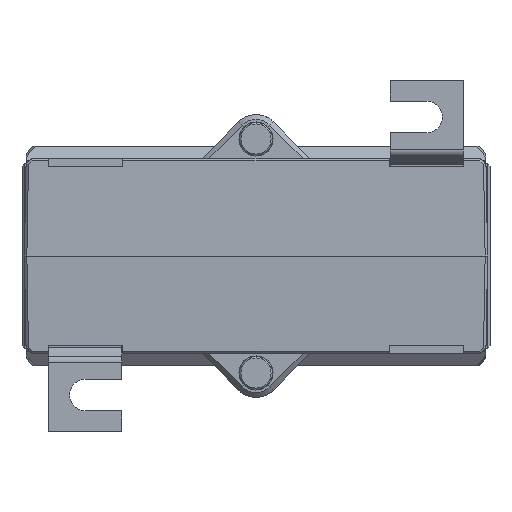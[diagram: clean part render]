
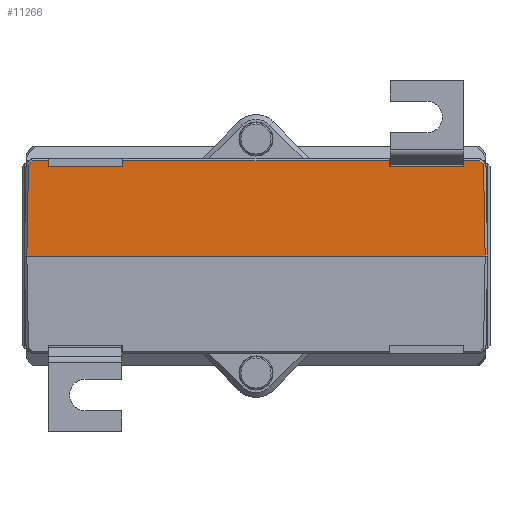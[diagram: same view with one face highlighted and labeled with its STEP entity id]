
A CAD part, front view. The second image highlights one B-rep face of the part: STEP entity #11266.
In plain terms, the highlighted planar face has unit normal (0, -1, 0.018).
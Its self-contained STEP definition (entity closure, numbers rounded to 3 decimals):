
#9867 = EDGE_CURVE ( 'NONE', #9924, #9894, #46593, .T. ) ;
#9894 = VERTEX_POINT ( 'NONE', #46596 ) ;
#9924 = VERTEX_POINT ( 'NONE', #46615 ) ;
#11139 = ORIENTED_EDGE ( 'NONE', *, *, #11262, .F. ) ;
#11144 = EDGE_LOOP ( 'NONE', ( #11139, #11273, #11282, #11239, #11243, #11277, #11261, #11254, #11219, #11247, #11228, #11223, #11227, #11233 ) ) ;
#11148 = VERTEX_POINT ( 'NONE', #48981 ) ;
#11151 = VERTEX_POINT ( 'NONE', #49090 ) ;
#11154 = VERTEX_POINT ( 'NONE', #49010 ) ;
#11217 = EDGE_CURVE ( 'NONE', #11264, #11280, #49175, .T. ) ;
#11219 = ORIENTED_EDGE ( 'NONE', *, *, #11256, .T. ) ;
#11220 = EDGE_CURVE ( 'NONE', #11260, #11280, #49201, .T. ) ;
#11222 = VERTEX_POINT ( 'NONE', #49169 ) ;
#11223 = ORIENTED_EDGE ( 'NONE', *, *, #11230, .T. ) ;
#11227 = ORIENTED_EDGE ( 'NONE', *, *, #11235, .F. ) ;
#11228 = ORIENTED_EDGE ( 'NONE', *, *, #11217, .F. ) ;
#11230 = EDGE_CURVE ( 'NONE', #11264, #11257, #49157, .T. ) ;
#11233 = ORIENTED_EDGE ( 'NONE', *, *, #11352, .T. ) ;
#11235 = EDGE_CURVE ( 'NONE', #11222, #11257, #49272, .T. ) ;
#11239 = ORIENTED_EDGE ( 'NONE', *, *, #11284, .T. ) ;
#11240 = EDGE_CURVE ( 'NONE', #11151, #11242, #49271, .T. ) ;
#11242 = VERTEX_POINT ( 'NONE', #49258 ) ;
#11243 = ORIENTED_EDGE ( 'NONE', *, *, #11240, .T. ) ;
#11245 = EDGE_CURVE ( 'NONE', #11242, #9924, #49252, .T. ) ;
#11247 = ORIENTED_EDGE ( 'NONE', *, *, #11220, .T. ) ;
#11253 = EDGE_CURVE ( 'NONE', #9894, #11270, #49161, .T. ) ;
#11254 = ORIENTED_EDGE ( 'NONE', *, *, #11253, .T. ) ;
#11256 = EDGE_CURVE ( 'NONE', #11270, #11260, #49234, .T. ) ;
#11257 = VERTEX_POINT ( 'NONE', #49255 ) ;
#11260 = VERTEX_POINT ( 'NONE', #49240 ) ;
#11261 = ORIENTED_EDGE ( 'NONE', *, *, #9867, .T. ) ;
#11262 = EDGE_CURVE ( 'NONE', #11148, #11267, #49224, .T. ) ;
#11264 = VERTEX_POINT ( 'NONE', #49250 ) ;
#11266 = ADVANCED_FACE ( 'NONE', ( #49225 ), #49276, .T. ) ;
#11267 = VERTEX_POINT ( 'NONE', #49239 ) ;
#11268 = EDGE_CURVE ( 'NONE', #11154, #11148, #49324, .T. ) ;
#11270 = VERTEX_POINT ( 'NONE', #49218 ) ;
#11271 = VERTEX_POINT ( 'NONE', #49326 ) ;
#11273 = ORIENTED_EDGE ( 'NONE', *, *, #11268, .F. ) ;
#11275 = EDGE_CURVE ( 'NONE', #11271, #11154, #49319, .T. ) ;
#11277 = ORIENTED_EDGE ( 'NONE', *, *, #11245, .T. ) ;
#11280 = VERTEX_POINT ( 'NONE', #49312 ) ;
#11282 = ORIENTED_EDGE ( 'NONE', *, *, #11275, .F. ) ;
#11284 = EDGE_CURVE ( 'NONE', #11271, #11151, #49330, .T. ) ;
#11352 = EDGE_CURVE ( 'NONE', #11222, #11267, #49434, .T. ) ;
#46589 = DIRECTION ( 'NONE',  ( 1., 0., 0. ) ) ;
#46590 = VECTOR ( 'NONE', #46589, 1000. ) ;
#46591 = CARTESIAN_POINT ( 'NONE',  ( -47.5, -48.25, 0. ) ) ;
#46593 = LINE ( 'NONE', #46591, #46590 ) ;
#46596 = CARTESIAN_POINT ( 'NONE',  ( 47., -48.25, 0. ) ) ;
#46615 = CARTESIAN_POINT ( 'NONE',  ( -47., -48.25, 0. ) ) ;
#48981 = CARTESIAN_POINT ( 'NONE',  ( -27.392, -47.929, 18.4 ) ) ;
#49010 = CARTESIAN_POINT ( 'NONE',  ( -42.608, -47.929, 18.4 ) ) ;
#49090 = CARTESIAN_POINT ( 'NONE',  ( -45.922, -47.91, 19.5 ) ) ;
#49156 = CARTESIAN_POINT ( 'NONE',  ( -47.5, -47.929, 18.4 ) ) ;
#49157 = LINE ( 'NONE', #49156, #49178 ) ;
#49159 = CARTESIAN_POINT ( 'NONE',  ( 46.971, -48.221, 1.648 ) ) ;
#49161 = LINE ( 'NONE', #49159, #49242 ) ;
#49163 = DIRECTION ( 'NONE',  ( -1., 0., 0. ) ) ;
#49165 = VECTOR ( 'NONE', #49163, 1000. ) ;
#49166 = CARTESIAN_POINT ( 'NONE',  ( -46.133, -47.91, 19.5 ) ) ;
#49169 = CARTESIAN_POINT ( 'NONE',  ( 27.382, -47.91, 19.5 ) ) ;
#49170 = DIRECTION ( 'NONE',  ( 0.009, 0.017, 1. ) ) ;
#49171 = VECTOR ( 'NONE', #49170, 1000. ) ;
#49173 = CARTESIAN_POINT ( 'NONE',  ( 42.441, -48.264, -0.785 ) ) ;
#49175 = LINE ( 'NONE', #49173, #49171 ) ;
#49176 = DIRECTION ( 'NONE',  ( -1., 0., 0. ) ) ;
#49178 = VECTOR ( 'NONE', #49176, 1000. ) ;
#49201 = LINE ( 'NONE', #49166, #49165 ) ;
#49218 = CARTESIAN_POINT ( 'NONE',  ( 46.672, -47.922, 18.775 ) ) ;
#49220 = DIRECTION ( 'NONE',  ( 0.009, 0.017, 1. ) ) ;
#49222 = VECTOR ( 'NONE', #49220, 1000. ) ;
#49223 = CARTESIAN_POINT ( 'NONE',  ( -27.554, -48.253, -0.174 ) ) ;
#49224 = LINE ( 'NONE', #49223, #49222 ) ;
#49225 = FACE_OUTER_BOUND ( 'NONE', #11144, .T. ) ;
#49230 = DIRECTION ( 'NONE',  ( -0.719, 0.012, 0.695 ) ) ;
#49231 = VECTOR ( 'NONE', #49230, 1000. ) ;
#49233 = CARTESIAN_POINT ( 'NONE',  ( 45.781, -47.907, 19.636 ) ) ;
#49234 = LINE ( 'NONE', #49233, #49231 ) ;
#49236 = AXIS2_PLACEMENT_3D ( 'NONE', #49335, #49334, #49332 ) ;
#49239 = CARTESIAN_POINT ( 'NONE',  ( -27.382, -47.91, 19.5 ) ) ;
#49240 = CARTESIAN_POINT ( 'NONE',  ( 45.922, -47.91, 19.5 ) ) ;
#49241 = DIRECTION ( 'NONE',  ( -0.017, 0.017, 1. ) ) ;
#49242 = VECTOR ( 'NONE', #49241, 1000. ) ;
#49245 = DIRECTION ( 'NONE',  ( -0.017, -0.017, -1. ) ) ;
#49247 = VECTOR ( 'NONE', #49245, 1000. ) ;
#49250 = CARTESIAN_POINT ( 'NONE',  ( 42.608, -47.929, 18.4 ) ) ;
#49251 = CARTESIAN_POINT ( 'NONE',  ( -47., -48.25, -0.009 ) ) ;
#49252 = LINE ( 'NONE', #49251, #49247 ) ;
#49255 = CARTESIAN_POINT ( 'NONE',  ( 27.392, -47.929, 18.4 ) ) ;
#49256 = DIRECTION ( 'NONE',  ( -0.719, -0.012, -0.695 ) ) ;
#49258 = CARTESIAN_POINT ( 'NONE',  ( -46.672, -47.922, 18.776 ) ) ;
#49262 = DIRECTION ( 'NONE',  ( 0.009, -0.017, -1. ) ) ;
#49263 = VECTOR ( 'NONE', #49262, 1000. ) ;
#49264 = CARTESIAN_POINT ( 'NONE',  ( 27.547, -48.239, 0.655 ) ) ;
#49266 = VECTOR ( 'NONE', #49256, 1000. ) ;
#49269 = CARTESIAN_POINT ( 'NONE',  ( -46.817, -47.925, 18.636 ) ) ;
#49271 = LINE ( 'NONE', #49269, #49266 ) ;
#49272 = LINE ( 'NONE', #49264, #49263 ) ;
#49276 = PLANE ( 'NONE',  #49236 ) ;
#49298 = DIRECTION ( 'NONE',  ( -1., 0., 0. ) ) ;
#49300 = VECTOR ( 'NONE', #49298, 1000. ) ;
#49307 = DIRECTION ( 'NONE',  ( 0.009, -0.017, -1. ) ) ;
#49309 = VECTOR ( 'NONE', #49307, 1000. ) ;
#49312 = CARTESIAN_POINT ( 'NONE',  ( 42.618, -47.91, 19.5 ) ) ;
#49318 = CARTESIAN_POINT ( 'NONE',  ( -42.448, -48.249, 0.044 ) ) ;
#49319 = LINE ( 'NONE', #49318, #49309 ) ;
#49320 = DIRECTION ( 'NONE',  ( 1., 0., 0. ) ) ;
#49321 = VECTOR ( 'NONE', #49320, 1000. ) ;
#49323 = CARTESIAN_POINT ( 'NONE',  ( -47.5, -47.929, 18.4 ) ) ;
#49324 = LINE ( 'NONE', #49323, #49321 ) ;
#49326 = CARTESIAN_POINT ( 'NONE',  ( -42.618, -47.91, 19.5 ) ) ;
#49329 = CARTESIAN_POINT ( 'NONE',  ( -46.133, -47.91, 19.5 ) ) ;
#49330 = LINE ( 'NONE', #49329, #49300 ) ;
#49332 = DIRECTION ( 'NONE',  ( 0., -0.017, -1. ) ) ;
#49334 = DIRECTION ( 'NONE',  ( 0., -1., 0.017 ) ) ;
#49335 = CARTESIAN_POINT ( 'NONE',  ( -47.5, -48.25, 0. ) ) ;
#49432 = CARTESIAN_POINT ( 'NONE',  ( -46.133, -47.91, 19.5 ) ) ;
#49434 = LINE ( 'NONE', #49432, #49550 ) ;
#49548 = DIRECTION ( 'NONE',  ( -1., 0., 0. ) ) ;
#49550 = VECTOR ( 'NONE', #49548, 1000. ) ;
